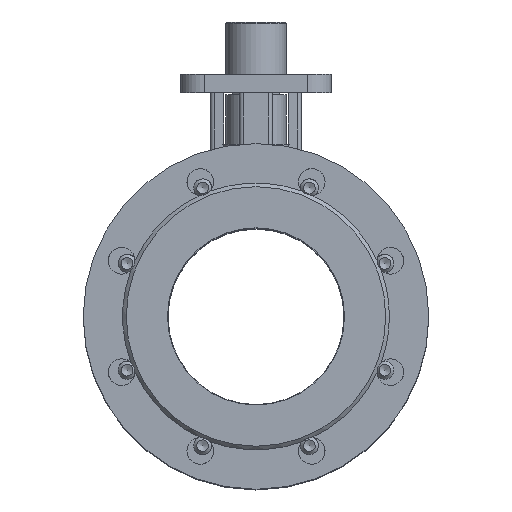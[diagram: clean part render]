
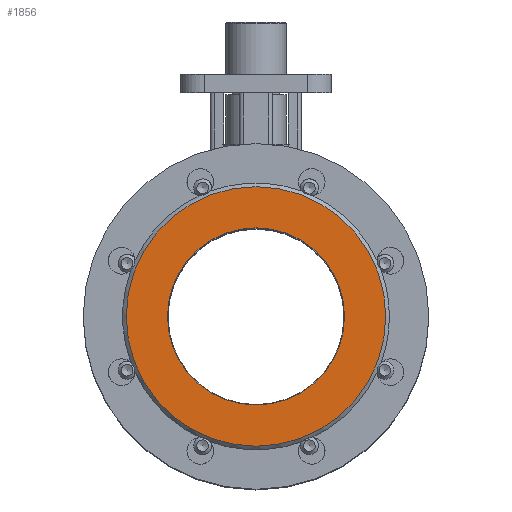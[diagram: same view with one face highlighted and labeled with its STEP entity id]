
A CAD part, top view. The second image highlights one B-rep face of the part: STEP entity #1856.
In plain terms, the highlighted planar face has unit normal (0, 0, 1).
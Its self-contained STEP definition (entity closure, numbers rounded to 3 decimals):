
#1856=ADVANCED_FACE('',(#8609,#8611),#8613,.T.);
#8609=FACE_BOUND('',#8610,.T.);
#8610=EDGE_LOOP('',(#12607));
#8611=FACE_BOUND('',#8612,.T.);
#8612=EDGE_LOOP('',(#12608));
#8613=PLANE('',#8614);
#8614=AXIS2_PLACEMENT_3D('',#8615,#8616,#8617);
#8615=CARTESIAN_POINT('',(62.5,194.,158.191));
#8616=DIRECTION('',(0.,0.,1.));
#8617=DIRECTION('',(1.,0.,0.));
#12607=ORIENTED_EDGE('',*,*,#14526,.T.);
#12608=ORIENTED_EDGE('',*,*,#14341,.T.);
#14341=EDGE_CURVE('',#16539,#16539,#16540,.F.);
#14526=EDGE_CURVE('',#16841,#16841,#16842,.T.);
#16539=VERTEX_POINT('',#28846);
#16540=CIRCLE('',#28847,73.);
#16841=VERTEX_POINT('',#30537);
#16842=CIRCLE('',#30538,107.);
#28846=CARTESIAN_POINT('',(73.,0.,158.191));
#28847=AXIS2_PLACEMENT_3D('',#28848,#28849,#28850);
#28848=CARTESIAN_POINT('',(0.,0.,158.191));
#28849=DIRECTION('',(0.,0.,1.));
#28850=DIRECTION('',(1.,0.,0.));
#30537=CARTESIAN_POINT('',(107.,0.,158.191));
#30538=AXIS2_PLACEMENT_3D('',#30539,#30540,#30541);
#30539=CARTESIAN_POINT('',(0.,0.,158.191));
#30540=DIRECTION('',(0.,0.,1.));
#30541=DIRECTION('',(1.,0.,0.));
